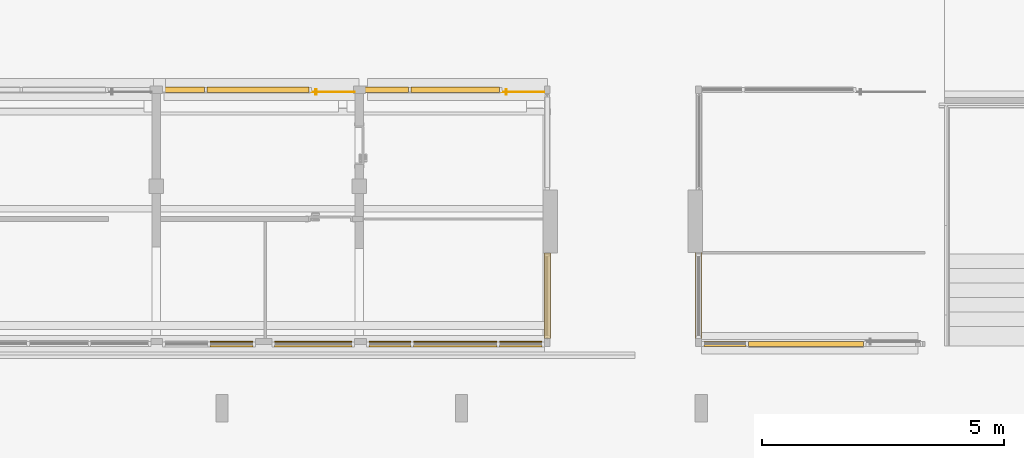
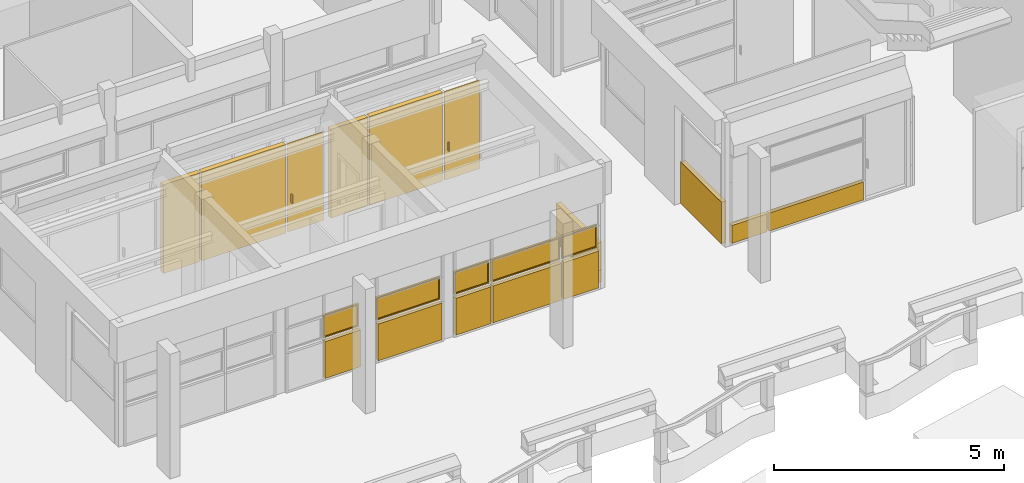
# One storey, part 107 of 117: 14 curtain walls, 5 windows, 2 doors, 8 elements without a shape of their own.
"""IFC4 building model written with IfcOpenShell, lengths in metres."""

from ifc_helpers import new_model, entity, si_unit, converted_unit, derived_unit, direction, frame, origin, place, context, subcontext, project, spatial, indexed_curve, outline, extrude, source, transform, mapped, material, constituent, constituent_set, type_object, type_shapes, element, aggregate, save


model = new_model("IFC4")

# Units and contexts
model_context = context("Model", 3, precision=1e-05, world=origin(), true_north=direction((6.123031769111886e-17, 1.0)))
body_context = subcontext(model_context, "Body", "Model", "MODEL_VIEW")
ifc_project = project(units=[si_unit("LENGTHUNIT", "METRE"), si_unit("AREAUNIT", "SQUARE_METRE"), si_unit("VOLUMEUNIT", "CUBIC_METRE"), converted_unit("PLANEANGLEUNIT", "DEGREE", entity("IfcRatioMeasure", 0.017453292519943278), si_unit("PLANEANGLEUNIT", "RADIAN"), dimensions=[0, 0, 0, 0, 0, 0, 0]), si_unit("MASSUNIT", "GRAM", prefix="KILO"), derived_unit("MASSDENSITYUNIT", [(si_unit("MASSUNIT", "GRAM", prefix="KILO"), 1), (si_unit("LENGTHUNIT", "METRE"), -3)]), derived_unit("MOMENTOFINERTIAUNIT", [(si_unit("LENGTHUNIT", "METRE"), 4)]), si_unit("TIMEUNIT", "SECOND"), si_unit("FREQUENCYUNIT", "HERTZ"), si_unit("THERMODYNAMICTEMPERATUREUNIT", "DEGREE_CELSIUS"), derived_unit("THERMALTRANSMITTANCEUNIT", [(si_unit("MASSUNIT", "GRAM", prefix="KILO"), 1), (si_unit("THERMODYNAMICTEMPERATUREUNIT", "KELVIN"), -1), (si_unit("TIMEUNIT", "SECOND"), -3)]), derived_unit("VOLUMETRICFLOWRATEUNIT", [(si_unit("LENGTHUNIT", "METRE"), 3), (si_unit("TIMEUNIT", "SECOND"), -1)]), derived_unit("MASSFLOWRATEUNIT", [(si_unit("MASSUNIT", "GRAM", prefix="KILO"), 1), (si_unit("TIMEUNIT", "SECOND"), -1)]), derived_unit("ROTATIONALFREQUENCYUNIT", [(si_unit("TIMEUNIT", "SECOND"), -1)]), si_unit("ELECTRICCURRENTUNIT", "AMPERE"), si_unit("ELECTRICVOLTAGEUNIT", "VOLT"), si_unit("POWERUNIT", "WATT"), si_unit("FORCEUNIT", "NEWTON", prefix="KILO"), si_unit("ILLUMINANCEUNIT", "LUX"), si_unit("LUMINOUSFLUXUNIT", "LUMEN"), si_unit("LUMINOUSINTENSITYUNIT", "CANDELA"), derived_unit("USERDEFINED", [(si_unit("MASSUNIT", "GRAM", prefix="KILO"), -1), (si_unit("LENGTHUNIT", "METRE"), -2), (si_unit("TIMEUNIT", "SECOND"), 3), (si_unit("LUMINOUSFLUXUNIT", "LUMEN"), 1)]), derived_unit("SOUNDPOWERUNIT", [(si_unit("MASSUNIT", "GRAM", prefix="KILO"), 1), (si_unit("LENGTHUNIT", "METRE"), 2), (si_unit("TIMEUNIT", "SECOND"), -3)]), derived_unit("SOUNDPRESSUREUNIT", [(si_unit("MASSUNIT", "GRAM", prefix="KILO"), 1), (si_unit("LENGTHUNIT", "METRE"), -1), (si_unit("TIMEUNIT", "SECOND"), -2)]), derived_unit("LINEARVELOCITYUNIT", [(si_unit("LENGTHUNIT", "METRE"), 1), (si_unit("TIMEUNIT", "SECOND"), -1)]), si_unit("PRESSUREUNIT", "PASCAL"), derived_unit("USERDEFINED", [(si_unit("LENGTHUNIT", "METRE"), -2), (si_unit("MASSUNIT", "GRAM", prefix="KILO"), 1), (si_unit("TIMEUNIT", "SECOND"), -2)]), derived_unit("LINEARFORCEUNIT", [(si_unit("MASSUNIT", "GRAM", prefix="KILO"), 1), (si_unit("LENGTHUNIT", "METRE"), 1), (si_unit("TIMEUNIT", "SECOND"), -2), (si_unit("LENGTHUNIT", "METRE"), -1)]), derived_unit("PLANARFORCEUNIT", [(si_unit("MASSUNIT", "GRAM", prefix="KILO"), 1), (si_unit("LENGTHUNIT", "METRE"), 1), (si_unit("TIMEUNIT", "SECOND"), -2), (si_unit("LENGTHUNIT", "METRE"), -2)])], contexts=[model_context])

# Site, building, storey
site_placement = place(None, origin())
site = spatial("IfcSite", under=ifc_project, at=site_placement, Name="Superficie", CompositionType="ELEMENT")
building_placement = place(site_placement, origin())
building = spatial("IfcBuilding", under=site, at=building_placement, CompositionType="ELEMENT")
storey_placement = place(building_placement, origin())
storey = spatial("IfcBuildingStorey", under=building, at=storey_placement, Name="Nivel 0", CompositionType="ELEMENT", Elevation=0.0)

# Curtain walls
curtain_wall_type_1 = type_object("IfcCurtainWallType", Name="Muro cortina:Muro cortina - simple", PredefinedType="NOTDEFINED")
curtain_wall_1_placement = place(storey_placement, origin())
curtain_wall_1 = element("IfcCurtainWall", 1, at=curtain_wall_1_placement, inside=storey, type_object=curtain_wall_type_1, Name="Muro cortina:Muro cortina - simple", ObjectType="Muro cortina:Muro cortina - simple", PredefinedType="NOTDEFINED")
ifc_material_1 = material(Name="<Unnamed>")
curtain_wall_type_2 = type_object("IfcCurtainWallType", Name="Muro básico:Por defecto - 12 cm 2", PredefinedType="NOTDEFINED")
curtain_wall_2_placement = place(storey_placement, frame((12.786799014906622, 0.1558292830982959, 0.05), z_axis=(0.0, 0.0, 1.0), x_axis=(0.0, -1.0, 0.0)))
curtain_wall_2 = element("IfcCurtainWall", 2, at=curtain_wall_2_placement, type_object=curtain_wall_type_2, material=ifc_material_1, Name="Muro básico:Por defecto - 12 cm 2", ObjectType="Muro básico:Por defecto - 12 cm 2", PredefinedType="NOTDEFINED", context=body_context, shape_type="SweptSolid", body=[
    extrude(outline(indexed_curve([(1.7699999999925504, 0.05999999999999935), (-5.735525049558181e-18, 0.05999999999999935), (5.735525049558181e-18, -0.05999999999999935), (1.7699999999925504, -0.05999999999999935), (1.7699999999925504, 0.05999999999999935)], self_intersect=False)), origin(), (0.0, 0.0, 1.0), 0.3166666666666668),
])
curtain_wall_3_placement = place(storey_placement, frame((12.786799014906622, 0.1558292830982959, 0.3666666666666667), z_axis=(0.0, 0.0, 1.0), x_axis=(0.0, -1.0, 0.0)))
curtain_wall_3 = element("IfcCurtainWall", 3, at=curtain_wall_3_placement, type_object=curtain_wall_type_2, material=ifc_material_1, Name="Muro básico:Por defecto - 12 cm 2", ObjectType="Muro básico:Por defecto - 12 cm 2", PredefinedType="NOTDEFINED", context=body_context, shape_type="SweptSolid", body=[
    extrude(outline(indexed_curve([(1.7699999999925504, 0.05999999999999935), (-5.735525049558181e-18, 0.05999999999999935), (5.735525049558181e-18, -0.05999999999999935), (1.7699999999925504, -0.05999999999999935), (1.7699999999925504, 0.05999999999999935)], self_intersect=False)), origin(), (0.0, 0.0, 1.0), 0.7333333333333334),
])
aggregate(curtain_wall_1, [curtain_wall_2, curtain_wall_3])

curtain_wall_4_placement = place(storey_placement, origin())
curtain_wall_4 = element("IfcCurtainWall", 4, at=curtain_wall_4_placement, inside=storey, type_object=curtain_wall_type_1, Name="Muro cortina:Muro cortina - simple", ObjectType="Muro cortina:Muro cortina - simple", PredefinedType="NOTDEFINED")
curtain_wall_5_placement = place(storey_placement, frame((11.796799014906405, 3.525713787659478, 0.0), z_axis=(0.0, 0.0, 1.0), x_axis=(-1.0, 0.0, 0.0)))
curtain_wall_5 = element("IfcCurtainWall", 5, at=curtain_wall_5_placement, type_object=curtain_wall_type_2, material=ifc_material_1, Name="Muro básico:Por defecto - 12 cm 2", ObjectType="Muro básico:Por defecto - 12 cm 2", PredefinedType="NOTDEFINED", context=body_context, shape_type="SweptSolid", body=[
    extrude(outline(indexed_curve([(1.8299999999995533, 0.06000000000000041), (-1.9420986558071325e-16, 0.059999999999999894), (1.9420986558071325e-16, -0.059999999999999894), (1.829999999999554, -0.05999999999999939), (1.8299999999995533, 0.06000000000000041)], self_intersect=False)), origin(), (0.0, 0.0, 1.0), 2.35),
])
curtain_wall_6_placement = place(storey_placement, frame((9.91679901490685, 3.5257137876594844, 0.0), z_axis=(0.0, 0.0, 1.0), x_axis=(-1.0, 0.0, 0.0)))
curtain_wall_6 = element("IfcCurtainWall", 6, at=curtain_wall_6_placement, type_object=curtain_wall_type_2, material=ifc_material_1, Name="Muro básico:Por defecto - 12 cm 2", ObjectType="Muro básico:Por defecto - 12 cm 2", PredefinedType="NOTDEFINED", context=body_context, shape_type="SweptSolid", body=[
    extrude(outline(indexed_curve([(0.9250000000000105, 0.060000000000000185), (-1.9420986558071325e-16, 0.059999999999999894), (1.9420986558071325e-16, -0.059999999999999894), (0.9250000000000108, -0.05999999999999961), (0.9250000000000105, 0.060000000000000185)], self_intersect=False)), origin(), (0.0, 0.0, 1.0), 2.35),
])

curtain_wall_7_placement = place(storey_placement, origin())
curtain_wall_7 = element("IfcCurtainWall", 7, at=curtain_wall_7_placement, inside=storey, type_object=curtain_wall_type_1, Name="Muro cortina:Muro cortina - simple", ObjectType="Muro cortina:Muro cortina - simple", PredefinedType="NOTDEFINED")
curtain_wall_8_placement = place(storey_placement, frame((7.866799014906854, 3.525713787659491, 0.0), z_axis=(0.0, 0.0, 1.0), x_axis=(-1.0, 0.0, 0.0)))
curtain_wall_8 = element("IfcCurtainWall", 8, at=curtain_wall_8_placement, type_object=curtain_wall_type_2, material=ifc_material_1, Name="Muro básico:Por defecto - 12 cm 2", ObjectType="Muro básico:Por defecto - 12 cm 2", PredefinedType="NOTDEFINED", context=body_context, shape_type="SweptSolid", body=[
    extrude(outline(indexed_curve([(2.1100000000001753, 0.06000000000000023), (-1.9420986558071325e-16, 0.059999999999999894), (1.9420986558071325e-16, -0.059999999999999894), (2.1100000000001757, -0.05999999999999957), (2.1100000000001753, 0.06000000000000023)], self_intersect=False)), origin(), (0.0, 0.0, 1.0), 2.35),
])
curtain_wall_9_placement = place(storey_placement, frame((5.706799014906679, 3.5257137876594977, 0.0), z_axis=(0.0, 0.0, 1.0), x_axis=(-1.0, 0.0, 0.0)))
curtain_wall_9 = element("IfcCurtainWall", 9, at=curtain_wall_9_placement, type_object=curtain_wall_type_2, material=ifc_material_1, Name="Muro básico:Por defecto - 12 cm 2", ObjectType="Muro básico:Por defecto - 12 cm 2", PredefinedType="NOTDEFINED", context=body_context, shape_type="SweptSolid", body=[
    extrude(outline(indexed_curve([(0.9099999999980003, 0.059999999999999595), (-1.9420986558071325e-16, 0.059999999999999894), (1.9420986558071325e-16, -0.059999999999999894), (0.9099999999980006, -0.0600000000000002), (0.9099999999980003, 0.059999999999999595)], self_intersect=False)), origin(), (0.0, 0.0, 1.0), 2.35),
])

curtain_wall_10_placement = place(storey_placement, origin())
curtain_wall_10 = element("IfcCurtainWall", 10, at=curtain_wall_10_placement, inside=storey, type_object=curtain_wall_type_1, Name="Muro cortina:Muro cortina - simple", ObjectType="Muro cortina:Muro cortina - simple", PredefinedType="NOTDEFINED")
curtain_wall_11_placement = place(storey_placement, frame((15.906799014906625, 0.16082928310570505, 0.0), z_axis=(0.0, 0.0, 1.0), x_axis=(0.0, -1.0, 0.0)))
curtain_wall_11 = element("IfcCurtainWall", 11, at=curtain_wall_11_placement, type_object=curtain_wall_type_2, material=ifc_material_1, Name="Muro básico:Por defecto - 12 cm 2", ObjectType="Muro básico:Por defecto - 12 cm 2", PredefinedType="NOTDEFINED", context=body_context, shape_type="SweptSolid", body=[
    extrude(outline(indexed_curve([(1.774999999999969, 0.059999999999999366), (-5.735525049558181e-18, 0.05999999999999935), (5.735525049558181e-18, -0.05999999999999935), (1.774999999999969, -0.059999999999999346), (1.774999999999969, 0.059999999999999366)], self_intersect=False)), origin(), (0.0, 0.0, 1.0), 1.1),
])
aggregate(curtain_wall_10, [curtain_wall_11])

# Door
ifc_material_2 = material(Name="Metal - Aluminio", Category="Metal")
ifc_constituent_1 = constituent(ifc_material_2, Name="Metal - Aluminio", Category="Metal")
ifc_material_3 = material(Name="Acero", Category="Metal")
ifc_constituent_2 = constituent(ifc_material_3, Name="Acero", Category="Metal")
ifc_constituent_set_1 = constituent_set(constituents=[ifc_constituent_1, ifc_constituent_2], Name="MaterialConstituentSet")
ifc_constituent_3 = constituent(ifc_material_2, Name="Marco/montante", Category="Metal")
ifc_constituent_4 = constituent(ifc_material_3, Name="Panel", Category="Metal")
ifc_constituent_set_2 = constituent_set(constituents=[ifc_constituent_3, ifc_constituent_4], Name="MaterialConstituentSet")
door_type_1 = type_object("IfcDoorType", Name="Puerta de cristal abatible en muro cortina:Puerta de chapa abatible en muro cortina 2", OperationType="NOTDEFINED", PredefinedType="DOOR", material=ifc_constituent_set_2)
shared_shape_1 = source(origin(), body_context, "Body", "SweptSolid", [
    extrude(outline(indexed_curve([(-0.012700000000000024, -0.0254), (0.012700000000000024, -0.0254), (0.012700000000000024, 0.0254), (-0.012700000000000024, 0.0254), (-0.012700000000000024, -0.0254)], self_intersect=False)), frame((0.34860000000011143, 0.012900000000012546, 0.7619999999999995)), (0.0, 0.0, 1.0), 0.22860000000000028),
    extrude(outline(indexed_curve([(-0.012699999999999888, -0.025399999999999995), (0.01269999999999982, -0.025399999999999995), (0.01269999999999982, 0.025400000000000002), (-0.012699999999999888, 0.025400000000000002), (-0.012699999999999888, -0.025399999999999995)], self_intersect=False)), frame((0.34860000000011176, 0.07640000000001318, 0.762), z_axis=(0.0, 0.0, 1.0), x_axis=(-1.0, 0.0, 0.0)), (0.0, 0.0, 1.0), 0.22860000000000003),
    extrude(outline(indexed_curve([(-0.006350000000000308, -0.43750000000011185), (0.006350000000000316, -0.4375000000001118), (0.006350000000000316, 0.4375000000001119), (-0.006350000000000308, 0.43750000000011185), (-0.006350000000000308, -0.43750000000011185)], self_intersect=False)), frame((0.0, 0.04465000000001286, 0.0), z_axis=(0.0, 0.0, 1.0), x_axis=(0.0, -1.0, 0.0)), (0.0, 0.0, 1.0), 2.35),
])
type_shapes(door_type_1, [shared_shape_1])
door_1_placement = place(curtain_wall_4_placement, frame((12.28429901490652, 3.5257137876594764, 0.0), z_axis=(0.0, 0.0, 1.0), x_axis=(-1.0, 0.0, 0.0)))
door_1 = element("IfcDoor", 12, at=door_1_placement, type_object=door_type_1, material=ifc_constituent_set_1, Name="Puerta de cristal abatible en muro cortina:Puerta de chapa abatible en muro cortina 2", ObjectType="Puerta de cristal abatible en muro cortina:Puerta de chapa abatible en muro cortina 2", OperationType="NOTDEFINED", OverallHeight=2.35, OverallWidth=0.8750000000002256, PredefinedType="DOOR", context=body_context, shape_type="MappedRepresentation", body=[
    mapped(shared_shape_1, transform((0.0, 0.0, 0.0), scale=1.0)),
])

aggregate(curtain_wall_4, [door_1, curtain_wall_5, curtain_wall_6])

ifc_constituent_5 = constituent(ifc_material_2, Name="Metal - Aluminio", Category="Metal")
ifc_constituent_6 = constituent(ifc_material_3, Name="Acero", Category="Metal")
ifc_constituent_set_3 = constituent_set(constituents=[ifc_constituent_5, ifc_constituent_6], Name="MaterialConstituentSet")
ifc_constituent_7 = constituent(ifc_material_2, Name="Marco/montante", Category="Metal")
ifc_constituent_8 = constituent(ifc_material_3, Name="Panel", Category="Metal")
ifc_constituent_set_4 = constituent_set(constituents=[ifc_constituent_7, ifc_constituent_8], Name="MaterialConstituentSet")
door_type_2 = type_object("IfcDoorType", Name="Puerta de cristal abatible en muro cortina:Puerta de chapa abatible en muro cortina 2", OperationType="NOTDEFINED", PredefinedType="DOOR", material=ifc_constituent_set_4)
shared_shape_2 = source(origin(), body_context, "Body", "SweptSolid", [
    extrude(outline(indexed_curve([(-0.012700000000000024, -0.0254), (0.012700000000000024, -0.0254), (0.012700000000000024, 0.0254), (-0.012700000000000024, 0.0254), (-0.012700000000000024, -0.0254)], self_intersect=False)), frame((0.35859999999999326, 0.012900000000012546, 0.7619999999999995)), (0.0, 0.0, 1.0), 0.22860000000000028),
    extrude(outline(indexed_curve([(-0.012699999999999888, -0.025399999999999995), (0.01269999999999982, -0.025399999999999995), (0.01269999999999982, 0.025400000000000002), (-0.012699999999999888, 0.025400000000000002), (-0.012699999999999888, -0.025399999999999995)], self_intersect=False)), frame((0.3585999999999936, 0.07640000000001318, 0.762), z_axis=(0.0, 0.0, 1.0), x_axis=(-1.0, 0.0, 0.0)), (0.0, 0.0, 1.0), 0.22860000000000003),
    extrude(outline(indexed_curve([(-0.006350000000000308, -0.4474999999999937), (0.006350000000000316, -0.4474999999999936), (0.006350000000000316, 0.4474999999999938), (-0.006350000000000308, 0.4474999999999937), (-0.006350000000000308, -0.4474999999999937)], self_intersect=False)), frame((0.0, 0.04465000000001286, 0.0), z_axis=(0.0, 0.0, 1.0), x_axis=(0.0, -1.0, 0.0)), (0.0, 0.0, 1.0), 2.35),
])
type_shapes(door_type_2, [shared_shape_2])
door_2_placement = place(curtain_wall_7_placement, frame((8.364299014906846, 3.5257137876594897, 0.0), z_axis=(0.0, 0.0, 1.0), x_axis=(-1.0, 0.0, 0.0)))
door_2 = element("IfcDoor", 13, at=door_2_placement, type_object=door_type_2, material=ifc_constituent_set_3, Name="Puerta de cristal abatible en muro cortina:Puerta de chapa abatible en muro cortina 2", ObjectType="Puerta de cristal abatible en muro cortina:Puerta de chapa abatible en muro cortina 2", OperationType="NOTDEFINED", OverallHeight=2.35, OverallWidth=0.8949999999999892, PredefinedType="DOOR", context=body_context, shape_type="MappedRepresentation", body=[
    mapped(shared_shape_2, transform((0.0, 0.0, 0.0), scale=1.0)),
])

aggregate(curtain_wall_7, [door_2, curtain_wall_8, curtain_wall_9])

# Curtain walls
curtain_wall_12_placement = place(storey_placement, origin())
curtain_wall_12 = element("IfcCurtainWall", 14, at=curtain_wall_12_placement, inside=storey, type_object=curtain_wall_type_1, Name="Muro cortina:Muro cortina - simple", ObjectType="Muro cortina:Muro cortina - simple", PredefinedType="NOTDEFINED")
curtain_wall_type_3 = type_object("IfcCurtainWallType", Name="Muro básico:Por defecto - 10 cm", PredefinedType="NOTDEFINED")
curtain_wall_13_placement = place(storey_placement, frame((19.311799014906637, -1.7241707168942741, 0.05), z_axis=(0.0, 0.0, 1.0), x_axis=(-1.0, 0.0, 0.0)))
curtain_wall_13 = element("IfcCurtainWall", 15, at=curtain_wall_13_placement, type_object=curtain_wall_type_3, material=ifc_material_1, Name="Muro básico:Por defecto - 10 cm", ObjectType="Muro básico:Por defecto - 10 cm", PredefinedType="NOTDEFINED", context=body_context, shape_type="SweptSolid", body=[
    extrude(outline(indexed_curve([(2.370000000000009, 0.050000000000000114), (-1.6230757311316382e-16, 0.05), (1.6230757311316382e-16, -0.05), (2.3700000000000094, -0.04999999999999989), (2.370000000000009, 0.050000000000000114)], self_intersect=False)), origin(), (0.0, 0.0, 1.0), 0.47500000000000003),
])
curtain_wall_14_placement = place(storey_placement, frame((16.891799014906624, -1.7241707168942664, 0.05), z_axis=(0.0, 0.0, 1.0), x_axis=(-1.0, 0.0, 0.0)))
curtain_wall_14 = element("IfcCurtainWall", 16, at=curtain_wall_14_placement, type_object=curtain_wall_type_3, material=ifc_material_1, Name="Muro básico:Por defecto - 10 cm", ObjectType="Muro básico:Por defecto - 10 cm", PredefinedType="NOTDEFINED", context=body_context, shape_type="SweptSolid", body=[
    extrude(outline(indexed_curve([(0.8750000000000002, 0.05000000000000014), (-1.6230757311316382e-16, 0.05), (1.6230757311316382e-16, -0.05), (0.8750000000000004, -0.04999999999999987), (0.8750000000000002, 0.05000000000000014)], self_intersect=False)), origin(), (0.0, 0.0, 1.0), 0.47500000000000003),
])
aggregate(curtain_wall_12, [curtain_wall_13, curtain_wall_14])

curtain_wall_15_placement = place(storey_placement, origin())
curtain_wall_15 = element("IfcCurtainWall", 17, at=curtain_wall_15_placement, inside=storey, type_object=curtain_wall_type_1, Name="Muro cortina:Muro cortina - simple", ObjectType="Muro cortina:Muro cortina - simple", PredefinedType="NOTDEFINED")
curtain_wall_16_placement = place(storey_placement, frame((5.821799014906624, -1.7341707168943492, 0.05)))
curtain_wall_16 = element("IfcCurtainWall", 18, at=curtain_wall_16_placement, type_object=curtain_wall_type_3, material=ifc_material_1, Name="Muro básico:Por defecto - 10 cm", ObjectType="Muro básico:Por defecto - 10 cm", PredefinedType="NOTDEFINED", context=body_context, shape_type="SweptSolid", body=[
    extrude(outline(indexed_curve([(0.8850000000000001, 0.05000000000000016), (-1.6184125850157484e-16, 0.05), (1.6184125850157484e-16, -0.05), (0.8850000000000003, -0.04999999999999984), (0.8850000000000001, 0.05000000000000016)], self_intersect=False)), origin(), (0.0, 0.0, 1.0), 0.975),
])

curtain_wall_17_placement = place(storey_placement, origin())
curtain_wall_17 = element("IfcCurtainWall", 19, at=curtain_wall_17_placement, inside=storey, type_object=curtain_wall_type_1, Name="Muro cortina:Muro cortina - simple", ObjectType="Muro cortina:Muro cortina - simple", PredefinedType="NOTDEFINED")
curtain_wall_18_placement = place(storey_placement, frame((7.146799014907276, -1.7341707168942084, 0.05)))
curtain_wall_18 = element("IfcCurtainWall", 20, at=curtain_wall_18_placement, type_object=curtain_wall_type_3, material=ifc_material_1, Name="Muro básico:Por defecto - 10 cm", ObjectType="Muro básico:Por defecto - 10 cm", PredefinedType="NOTDEFINED", context=body_context, shape_type="SweptSolid", body=[
    extrude(outline(indexed_curve([(1.5999999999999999, 0.0500000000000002), (-1.584870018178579e-16, 0.05), (1.584870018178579e-16, -0.05), (1.6000000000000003, -0.04999999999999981), (1.5999999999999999, 0.0500000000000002)], self_intersect=False)), origin(), (0.0, 0.0, 1.0), 0.975),
])

curtain_wall_19_placement = place(storey_placement, origin())
curtain_wall_19 = element("IfcCurtainWall", 21, at=curtain_wall_19_placement, inside=storey, type_object=curtain_wall_type_1, Name="Muro cortina:Muro cortina - simple", ObjectType="Muro cortina:Muro cortina - simple", PredefinedType="NOTDEFINED")
curtain_wall_20_placement = place(storey_placement, frame((9.096799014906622, -1.734170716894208, 0.05)))
curtain_wall_20 = element("IfcCurtainWall", 22, at=curtain_wall_20_placement, type_object=curtain_wall_type_3, material=ifc_material_1, Name="Muro básico:Por defecto - 10 cm", ObjectType="Muro básico:Por defecto - 10 cm", PredefinedType="NOTDEFINED", context=body_context, shape_type="SweptSolid", body=[
    extrude(outline(indexed_curve([(0.8750000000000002, 0.05000000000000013), (-1.6206174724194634e-16, 0.05), (1.6206174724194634e-16, -0.05), (0.8750000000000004, -0.04999999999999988), (0.8750000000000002, 0.05000000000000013)], self_intersect=False)), origin(), (0.0, 0.0, 1.0), 0.975),
])
curtain_wall_21_placement = place(storey_placement, frame((10.021799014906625, -1.734170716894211, 0.05)))
curtain_wall_21 = element("IfcCurtainWall", 23, at=curtain_wall_21_placement, type_object=curtain_wall_type_3, material=ifc_material_1, Name="Muro básico:Por defecto - 10 cm", ObjectType="Muro básico:Por defecto - 10 cm", PredefinedType="NOTDEFINED", context=body_context, shape_type="SweptSolid", body=[
    extrude(outline(indexed_curve([(1.7249999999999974, 0.05000000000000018), (-1.6206174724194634e-16, 0.05), (1.6206174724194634e-16, -0.05), (1.7249999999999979, -0.04999999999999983), (1.7249999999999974, 0.05000000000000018)], self_intersect=False)), origin(), (0.0, 0.0, 1.0), 0.975),
])
curtain_wall_22_placement = place(storey_placement, frame((11.796799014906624, -1.7341707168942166, 0.05)))
curtain_wall_22 = element("IfcCurtainWall", 24, at=curtain_wall_22_placement, type_object=curtain_wall_type_3, material=ifc_material_1, Name="Muro básico:Por defecto - 10 cm", ObjectType="Muro básico:Por defecto - 10 cm", PredefinedType="NOTDEFINED", context=body_context, shape_type="SweptSolid", body=[
    extrude(outline(indexed_curve([(0.8750000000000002, 0.05000000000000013), (-1.6206174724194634e-16, 0.05), (1.6206174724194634e-16, -0.05), (0.8750000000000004, -0.04999999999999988), (0.8750000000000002, 0.05000000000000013)], self_intersect=False)), origin(), (0.0, 0.0, 1.0), 0.975),
])

# Window
ifc_material_4 = material(Name="Vidrio", Category="Vidrio")
ifc_constituent_9 = constituent(ifc_material_4, Name="Vidrio", Category="Vidrio")
ifc_constituent_10 = constituent(ifc_material_2, Name="Metal - Aluminio", Category="Metal")
ifc_constituent_set_5 = constituent_set(constituents=[ifc_constituent_9, ifc_constituent_10], Name="MaterialConstituentSet")
ifc_constituent_11 = constituent(ifc_material_4, Name="Cristal", Category="Vidrio")
ifc_constituent_12 = constituent(ifc_material_2, Name="Marco/montante", Category="Metal")
ifc_constituent_set_6 = constituent_set(constituents=[ifc_constituent_11, ifc_constituent_12], Name="MaterialConstituentSet")
window_type_1 = type_object("IfcWindowType", Name="Ventana de muro cortina con proyectable simple:Ventana de muro cortina con proyectable simple", PartitioningType="NOTDEFINED", PredefinedType="WINDOW", material=ifc_constituent_set_6)
shared_shape_3 = source(origin(), body_context, "Body", "SweptSolid", [
    extrude(outline(indexed_curve([(-0.006350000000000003, -0.4125000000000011), (0.0063499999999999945, -0.4125000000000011), (0.0063499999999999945, 0.4125000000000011), (-0.006350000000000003, 0.4125000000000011), (-0.006350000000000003, -0.4125000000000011)], self_intersect=False)), frame((0.0, 0.05039999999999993, 0.030000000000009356), z_axis=(0.0, 0.0, 1.0), x_axis=(0.0, 1.0, 0.0)), (0.0, 0.0, 1.0), 0.5399999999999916),
    extrude(outline(indexed_curve([(-0.44250000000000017, -0.2999999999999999), (0.44250000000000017, -0.2999999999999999), (0.44250000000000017, 0.2999999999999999), (-0.44250000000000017, 0.2999999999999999), (-0.44250000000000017, -0.2999999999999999)], self_intersect=False), holes=[indexed_curve([(-0.4125000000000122, -0.270000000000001), (-0.41250000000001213, 0.26999999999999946), (0.4125000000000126, 0.26999999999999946), (0.41250000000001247, -0.270000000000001), (-0.4125000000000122, -0.270000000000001)], self_intersect=False)]), frame((0.0, 0.024999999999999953, 0.2999999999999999), z_axis=(0.0, 1.0, 0.0), x_axis=(1.0, 0.0, 0.0)), (0.0, 0.0, 1.0), 0.05000000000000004),
])
type_shapes(window_type_1, [shared_shape_3])
window_1_placement = place(curtain_wall_15_placement, frame((6.264299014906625, -1.7341707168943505, 1.0749999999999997)))
window_1 = element("IfcWindow", 25, at=window_1_placement, type_object=window_type_1, material=ifc_constituent_set_5, Name="Ventana de muro cortina con proyectable simple:Ventana de muro cortina con proyectable simple", ObjectType="Ventana de muro cortina con proyectable simple:Ventana de muro cortina con proyectable simple", OverallHeight=0.5999999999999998, OverallWidth=0.8850000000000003, PartitioningType="NOTDEFINED", PredefinedType="WINDOW", context=body_context, shape_type="MappedRepresentation", body=[
    mapped(shared_shape_3, transform((0.0, 0.0, 0.0), scale=1.0)),
])

aggregate(curtain_wall_15, [curtain_wall_16, window_1])

ifc_constituent_13 = constituent(ifc_material_4, Name="Vidrio", Category="Vidrio")
ifc_constituent_14 = constituent(ifc_material_2, Name="Metal - Aluminio", Category="Metal")
ifc_constituent_set_7 = constituent_set(constituents=[ifc_constituent_13, ifc_constituent_14], Name="MaterialConstituentSet")
ifc_constituent_15 = constituent(ifc_material_4, Name="Cristal", Category="Vidrio")
ifc_constituent_16 = constituent(ifc_material_2, Name="Marco/montante", Category="Metal")
ifc_constituent_set_8 = constituent_set(constituents=[ifc_constituent_15, ifc_constituent_16], Name="MaterialConstituentSet")
window_type_2 = type_object("IfcWindowType", Name="Ventana de muro cortina con proyectable simple:Ventana de muro cortina con proyectable simple", PartitioningType="NOTDEFINED", PredefinedType="WINDOW", material=ifc_constituent_set_8)
shared_shape_4 = source(origin(), body_context, "Body", "SweptSolid", [
    extrude(outline(indexed_curve([(-0.006350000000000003, -0.770000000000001), (0.0063499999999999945, -0.770000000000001), (0.0063499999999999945, 0.770000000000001), (-0.006350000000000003, 0.770000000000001), (-0.006350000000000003, -0.770000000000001)], self_intersect=False)), frame((0.0, 0.05039999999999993, 0.030000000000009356), z_axis=(0.0, 0.0, 1.0), x_axis=(0.0, 1.0, 0.0)), (0.0, 0.0, 1.0), 0.5399999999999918),
    extrude(outline(indexed_curve([(-0.8, -0.30000000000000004), (0.8, -0.30000000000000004), (0.8, 0.30000000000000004), (-0.8, 0.30000000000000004), (-0.8, -0.30000000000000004)], self_intersect=False), holes=[indexed_curve([(-0.7700000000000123, -0.2700000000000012), (-0.7700000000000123, 0.26999999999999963), (0.7700000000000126, 0.26999999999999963), (0.7700000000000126, -0.2700000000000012), (-0.7700000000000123, -0.2700000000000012)], self_intersect=False)]), frame((0.0, 0.024999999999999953, 0.30000000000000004), z_axis=(0.0, 1.0, 0.0), x_axis=(1.0, 0.0, 0.0)), (0.0, 0.0, 1.0), 0.05000000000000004),
])
type_shapes(window_type_2, [shared_shape_4])
window_2_placement = place(curtain_wall_17_placement, frame((7.946799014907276, -1.7341707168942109, 1.0749999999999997)))
window_2 = element("IfcWindow", 26, at=window_2_placement, type_object=window_type_2, material=ifc_constituent_set_7, Name="Ventana de muro cortina con proyectable simple:Ventana de muro cortina con proyectable simple", ObjectType="Ventana de muro cortina con proyectable simple:Ventana de muro cortina con proyectable simple", OverallHeight=0.6000000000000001, OverallWidth=1.6000000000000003, PartitioningType="NOTDEFINED", PredefinedType="WINDOW", context=body_context, shape_type="MappedRepresentation", body=[
    mapped(shared_shape_4, transform((0.0, 0.0, 0.0), scale=1.0)),
])

aggregate(curtain_wall_17, [curtain_wall_18, window_2])

ifc_constituent_17 = constituent(ifc_material_4, Name="Vidrio", Category="Vidrio")
ifc_constituent_18 = constituent(ifc_material_2, Name="Metal - Aluminio", Category="Metal")
ifc_constituent_set_9 = constituent_set(constituents=[ifc_constituent_17, ifc_constituent_18], Name="MaterialConstituentSet")
ifc_constituent_19 = constituent(ifc_material_4, Name="Cristal", Category="Vidrio")
ifc_constituent_20 = constituent(ifc_material_2, Name="Marco/montante", Category="Metal")
ifc_constituent_set_10 = constituent_set(constituents=[ifc_constituent_19, ifc_constituent_20], Name="MaterialConstituentSet")
window_type_3 = type_object("IfcWindowType", Name="Ventana de muro cortina con proyectable simple:Ventana de muro cortina con proyectable simple", PartitioningType="NOTDEFINED", PredefinedType="WINDOW", material=ifc_constituent_set_10)
shared_shape_5 = source(origin(), body_context, "Body", "SweptSolid", [
    extrude(outline(indexed_curve([(-0.006350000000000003, -0.4075000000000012), (0.0063499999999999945, -0.4075000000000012), (0.0063499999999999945, 0.4075000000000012), (-0.006350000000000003, 0.4075000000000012), (-0.006350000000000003, -0.4075000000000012)], self_intersect=False)), frame((0.0, 0.05039999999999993, 0.030000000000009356), z_axis=(0.0, 0.0, 1.0), x_axis=(0.0, 1.0, 0.0)), (0.0, 0.0, 1.0), 0.5399999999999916),
    extrude(outline(indexed_curve([(-0.4375000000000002, -0.2999999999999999), (0.4375000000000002, -0.2999999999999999), (0.4375000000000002, 0.2999999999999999), (-0.4375000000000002, 0.2999999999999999), (-0.4375000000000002, -0.2999999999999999)], self_intersect=False), holes=[indexed_curve([(-0.40750000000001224, -0.270000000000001), (-0.4075000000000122, 0.26999999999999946), (0.40750000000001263, 0.26999999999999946), (0.4075000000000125, -0.270000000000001), (-0.40750000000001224, -0.270000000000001)], self_intersect=False)]), frame((0.0, 0.024999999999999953, 0.2999999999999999), z_axis=(0.0, 1.0, 0.0), x_axis=(1.0, 0.0, 0.0)), (0.0, 0.0, 1.0), 0.05000000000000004),
])
type_shapes(window_type_3, [shared_shape_5])
window_3_placement = place(curtain_wall_19_placement, frame((9.534299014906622, -1.7341707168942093, 1.075)))
window_3 = element("IfcWindow", 27, at=window_3_placement, type_object=window_type_3, material=ifc_constituent_set_9, Name="Ventana de muro cortina con proyectable simple:Ventana de muro cortina con proyectable simple", ObjectType="Ventana de muro cortina con proyectable simple:Ventana de muro cortina con proyectable simple", OverallHeight=0.5999999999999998, OverallWidth=0.8750000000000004, PartitioningType="NOTDEFINED", PredefinedType="WINDOW", context=body_context, shape_type="MappedRepresentation", body=[
    mapped(shared_shape_5, transform((0.0, 0.0, 0.0), scale=1.0)),
])

ifc_constituent_21 = constituent(ifc_material_4, Name="Vidrio", Category="Vidrio")
ifc_constituent_22 = constituent(ifc_material_2, Name="Metal - Aluminio", Category="Metal")
ifc_constituent_set_11 = constituent_set(constituents=[ifc_constituent_21, ifc_constituent_22], Name="MaterialConstituentSet")
window_4_placement = place(curtain_wall_19_placement, frame((12.234299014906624, -1.734170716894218, 1.0749999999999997)))
window_4 = element("IfcWindow", 28, at=window_4_placement, type_object=window_type_3, material=ifc_constituent_set_11, Name="Ventana de muro cortina con proyectable simple:Ventana de muro cortina con proyectable simple", ObjectType="Ventana de muro cortina con proyectable simple:Ventana de muro cortina con proyectable simple", OverallHeight=0.5999999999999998, OverallWidth=0.8750000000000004, PartitioningType="NOTDEFINED", PredefinedType="WINDOW", context=body_context, shape_type="MappedRepresentation", body=[
    mapped(shared_shape_5, transform((0.0, 0.0, 0.0), scale=1.0)),
])

ifc_constituent_23 = constituent(ifc_material_4, Name="Vidrio", Category="Vidrio")
ifc_constituent_24 = constituent(ifc_material_2, Name="Metal - Aluminio", Category="Metal")
ifc_constituent_set_12 = constituent_set(constituents=[ifc_constituent_23, ifc_constituent_24], Name="MaterialConstituentSet")
ifc_constituent_25 = constituent(ifc_material_4, Name="Cristal", Category="Vidrio")
ifc_constituent_26 = constituent(ifc_material_2, Name="Marco/montante", Category="Metal")
ifc_constituent_set_13 = constituent_set(constituents=[ifc_constituent_25, ifc_constituent_26], Name="MaterialConstituentSet")
window_type_4 = type_object("IfcWindowType", Name="Ventana de muro cortina con proyectable simple:Ventana de muro cortina con proyectable simple", PartitioningType="NOTDEFINED", PredefinedType="WINDOW", material=ifc_constituent_set_13)
shared_shape_6 = source(origin(), body_context, "Body", "SweptSolid", [
    extrude(outline(indexed_curve([(-0.006350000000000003, -0.8324999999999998), (0.0063499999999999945, -0.8324999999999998), (0.0063499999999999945, 0.8324999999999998), (-0.006350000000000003, 0.8324999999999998), (-0.006350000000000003, -0.8324999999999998)], self_intersect=False)), frame((0.0, 0.05039999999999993, 0.030000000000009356), z_axis=(0.0, 0.0, 1.0), x_axis=(0.0, 1.0, 0.0)), (0.0, 0.0, 1.0), 0.5399999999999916),
    extrude(outline(indexed_curve([(-0.8624999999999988, -0.2999999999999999), (0.8624999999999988, -0.2999999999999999), (0.8624999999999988, 0.2999999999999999), (-0.8624999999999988, 0.2999999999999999), (-0.8624999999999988, -0.2999999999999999)], self_intersect=False), holes=[indexed_curve([(-0.8325000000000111, -0.270000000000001), (-0.8325000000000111, 0.26999999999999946), (0.8325000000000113, 0.26999999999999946), (0.8325000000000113, -0.270000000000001), (-0.8325000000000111, -0.270000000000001)], self_intersect=False)]), frame((0.0, 0.024999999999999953, 0.2999999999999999), z_axis=(0.0, 1.0, 0.0), x_axis=(1.0, 0.0, 0.0)), (0.0, 0.0, 1.0), 0.05000000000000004),
])
type_shapes(window_type_4, [shared_shape_6])
window_5_placement = place(curtain_wall_19_placement, frame((10.884299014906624, -1.7341707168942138, 1.075)))
window_5 = element("IfcWindow", 29, at=window_5_placement, type_object=window_type_4, material=ifc_constituent_set_12, Name="Ventana de muro cortina con proyectable simple:Ventana de muro cortina con proyectable simple", ObjectType="Ventana de muro cortina con proyectable simple:Ventana de muro cortina con proyectable simple", OverallHeight=0.5999999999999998, OverallWidth=1.7249999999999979, PartitioningType="NOTDEFINED", PredefinedType="WINDOW", context=body_context, shape_type="MappedRepresentation", body=[
    mapped(shared_shape_6, transform((0.0, 0.0, 0.0), scale=1.0)),
])

aggregate(curtain_wall_19, [curtain_wall_20, curtain_wall_21, curtain_wall_22, window_3, window_5, window_4])

save(model, "model.ifc")
